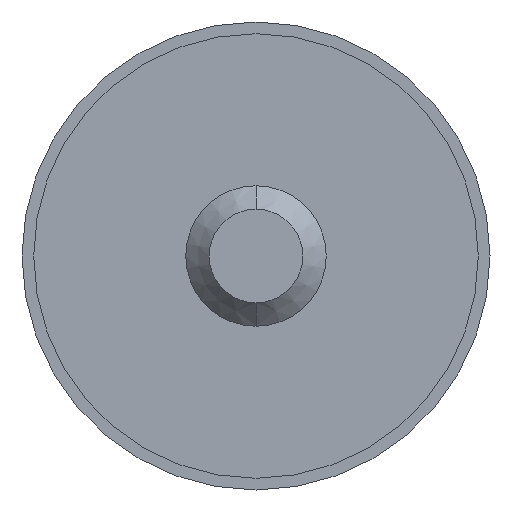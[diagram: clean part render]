
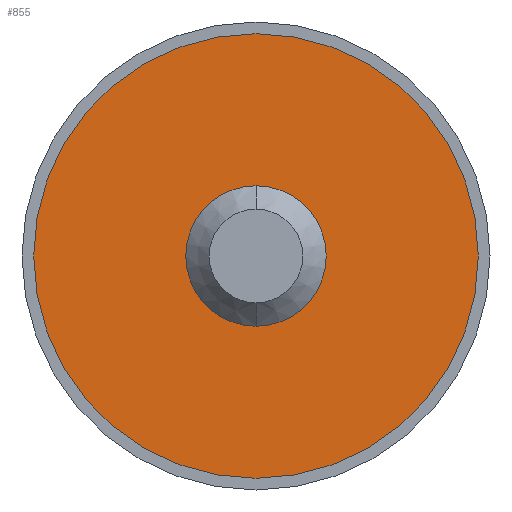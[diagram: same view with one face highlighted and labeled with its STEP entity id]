
A CAD part, front view. The second image highlights one B-rep face of the part: STEP entity #855.
In plain terms, the highlighted planar face has unit normal (0, -1, 0).
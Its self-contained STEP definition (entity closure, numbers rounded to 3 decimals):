
#174 = VERTEX_POINT ( 'NONE', #3542 ) ;
#289 = EDGE_LOOP ( 'NONE', ( #1094, #1791 ) ) ;
#456 = CIRCLE ( 'NONE', #3564, 3. ) ;
#474 = AXIS2_PLACEMENT_3D ( 'NONE', #739, #2879, #1049 ) ;
#480 = EDGE_CURVE ( 'NONE', #174, #3897, #2741, .T. ) ;
#629 = EDGE_CURVE ( 'NONE', #3897, #174, #1222, .T. ) ;
#715 = ORIENTED_EDGE ( 'NONE', *, *, #2360, .F. ) ;
#739 = CARTESIAN_POINT ( 'NONE',  ( 0., -1.5, 0. ) ) ;
#855 = ADVANCED_FACE ( 'NONE', ( #1930, #2076 ), #2216, .F. ) ;
#873 = CARTESIAN_POINT ( 'NONE',  ( 0., -1.5, -9.5 ) ) ;
#957 = CARTESIAN_POINT ( 'NONE',  ( 0., -1.5, 0. ) ) ;
#974 = DIRECTION ( 'NONE',  ( 0., 0., 1. ) ) ;
#1049 = DIRECTION ( 'NONE',  ( 0., 0., 1. ) ) ;
#1094 = ORIENTED_EDGE ( 'NONE', *, *, #480, .F. ) ;
#1222 = CIRCLE ( 'NONE', #2459, 9.5 ) ;
#1243 = DIRECTION ( 'NONE',  ( 0., 1., 0. ) ) ;
#1301 = AXIS2_PLACEMENT_3D ( 'NONE', #3069, #1243, #3375 ) ;
#1423 = DIRECTION ( 'NONE',  ( 0., 0., -1. ) ) ;
#1506 = ORIENTED_EDGE ( 'NONE', *, *, #2869, .F. ) ;
#1791 = ORIENTED_EDGE ( 'NONE', *, *, #629, .F. ) ;
#1798 = DIRECTION ( 'NONE',  ( 0., -1., 0. ) ) ;
#1930 = FACE_BOUND ( 'NONE', #3198, .T. ) ;
#2027 = AXIS2_PLACEMENT_3D ( 'NONE', #3859, #3249, #2376 ) ;
#2076 = FACE_OUTER_BOUND ( 'NONE', #289, .T. ) ;
#2162 = CARTESIAN_POINT ( 'NONE',  ( 0., -1.5, 0. ) ) ;
#2203 = CARTESIAN_POINT ( 'NONE',  ( 0., -1.5, -3. ) ) ;
#2216 = PLANE ( 'NONE',  #474 ) ;
#2360 = EDGE_CURVE ( 'NONE', #2609, #3530, #3705, .T. ) ;
#2376 = DIRECTION ( 'NONE',  ( 0., 0., -1. ) ) ;
#2459 = AXIS2_PLACEMENT_3D ( 'NONE', #2162, #3427, #974 ) ;
#2609 = VERTEX_POINT ( 'NONE', #3406 ) ;
#2741 = CIRCLE ( 'NONE', #1301, 9.5 ) ;
#2869 = EDGE_CURVE ( 'NONE', #3530, #2609, #456, .T. ) ;
#2879 = DIRECTION ( 'NONE',  ( 0., 1., 0. ) ) ;
#3069 = CARTESIAN_POINT ( 'NONE',  ( 0., -1.5, 0. ) ) ;
#3198 = EDGE_LOOP ( 'NONE', ( #715, #1506 ) ) ;
#3249 = DIRECTION ( 'NONE',  ( 0., -1., 0. ) ) ;
#3375 = DIRECTION ( 'NONE',  ( 0., 0., 1. ) ) ;
#3406 = CARTESIAN_POINT ( 'NONE',  ( 0., -1.5, 3. ) ) ;
#3427 = DIRECTION ( 'NONE',  ( 0., 1., 0. ) ) ;
#3530 = VERTEX_POINT ( 'NONE', #2203 ) ;
#3542 = CARTESIAN_POINT ( 'NONE',  ( 0., -1.5, 9.5 ) ) ;
#3564 = AXIS2_PLACEMENT_3D ( 'NONE', #957, #1798, #1423 ) ;
#3705 = CIRCLE ( 'NONE', #2027, 3. ) ;
#3859 = CARTESIAN_POINT ( 'NONE',  ( 0., -1.5, 0. ) ) ;
#3897 = VERTEX_POINT ( 'NONE', #873 ) ;
